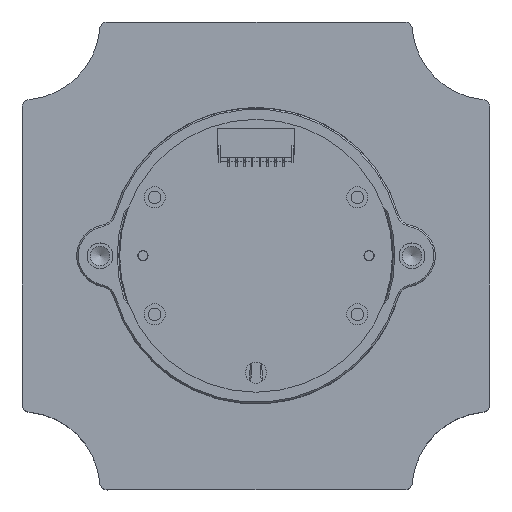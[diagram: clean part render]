
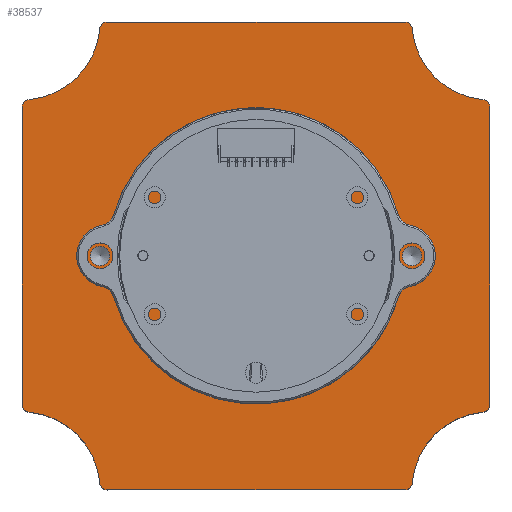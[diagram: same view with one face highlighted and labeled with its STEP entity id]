
A CAD part, top view. The second image highlights one B-rep face of the part: STEP entity #38537.
In plain terms, the highlighted planar face has unit normal (0, 0, 1).
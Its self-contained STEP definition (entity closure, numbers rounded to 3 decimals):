
#38281=CARTESIAN_POINT('',(20.041,-29.091,75.));
#38282=VERTEX_POINT('',#38281);
#38300=CARTESIAN_POINT('',(29.091,-20.041,75.));
#38301=VERTEX_POINT('',#38300);
#38308=CARTESIAN_POINT('',(30.,-30.,75.));
#38309=DIRECTION('',(-0.091,0.996,0.));
#38310=DIRECTION('',(0.,0.,1.));
#38311=AXIS2_PLACEMENT_3D('',#38308,#38310,#38309);
#38312=CIRCLE('',#38311,10.);
#38313=EDGE_CURVE('',#38301,#38282,#38312,.T.);
#38323=CARTESIAN_POINT('',(30.,-19.046,75.));
#38324=VERTEX_POINT('',#38323);
#38341=CARTESIAN_POINT('',(30.,19.046,75.));
#38342=VERTEX_POINT('',#38341);
#38349=CARTESIAN_POINT('',(30.,19.046,75.));
#38350=DIRECTION('',(0.,-1.,0.));
#38351=VECTOR('',#38350,38.091);
#38352=LINE('',#38349,#38351);
#38353=EDGE_CURVE('',#38342,#38324,#38352,.T.);
#38358=CARTESIAN_POINT('',(0.,0.,75.));
#38359=DIRECTION('',(0.,1.,0.));
#38360=DIRECTION('',(0.,-0.,1.));
#38361=AXIS2_PLACEMENT_3D('',#38358,#38360,#38359);
#38362=PLANE('',#38361);
#38363=CARTESIAN_POINT('',(-30.,19.046,75.));
#38364=VERTEX_POINT('',#38363);
#38365=CARTESIAN_POINT('',(-30.,-19.046,75.));
#38366=VERTEX_POINT('',#38365);
#38367=CARTESIAN_POINT('',(-30.,19.046,75.));
#38368=DIRECTION('',(0.,-1.,0.));
#38369=VECTOR('',#38368,38.091);
#38370=LINE('',#38367,#38369);
#38371=EDGE_CURVE('',#38364,#38366,#38370,.T.);
#38372=ORIENTED_EDGE('',*,*,#38371,.T.);
#38373=CARTESIAN_POINT('',(-29.091,-20.041,75.));
#38374=VERTEX_POINT('',#38373);
#38375=CARTESIAN_POINT('',(-29.,-19.046,75.));
#38376=DIRECTION('',(-1.,0.,0.));
#38377=DIRECTION('',(-0.,0.,1.));
#38378=AXIS2_PLACEMENT_3D('',#38375,#38377,#38376);
#38379=CIRCLE('',#38378,1.);
#38380=EDGE_CURVE('',#38366,#38374,#38379,.T.);
#38381=ORIENTED_EDGE('',*,*,#38380,.T.);
#38382=CARTESIAN_POINT('',(-20.041,-29.091,75.));
#38383=VERTEX_POINT('',#38382);
#38384=CARTESIAN_POINT('',(-30.,-30.,75.));
#38385=DIRECTION('',(0.091,0.996,0.));
#38386=DIRECTION('',(0.,-0.,-1.));
#38387=AXIS2_PLACEMENT_3D('',#38384,#38386,#38385);
#38388=CIRCLE('',#38387,10.);
#38389=EDGE_CURVE('',#38374,#38383,#38388,.T.);
#38390=ORIENTED_EDGE('',*,*,#38389,.T.);
#38391=CARTESIAN_POINT('',(-19.046,-30.,75.));
#38392=VERTEX_POINT('',#38391);
#38393=CARTESIAN_POINT('',(-19.046,-29.,75.));
#38394=DIRECTION('',(-0.996,-0.091,0.));
#38395=DIRECTION('',(-0.,0.,1.));
#38396=AXIS2_PLACEMENT_3D('',#38393,#38395,#38394);
#38397=CIRCLE('',#38396,1.);
#38398=EDGE_CURVE('',#38383,#38392,#38397,.T.);
#38399=ORIENTED_EDGE('',*,*,#38398,.T.);
#38400=CARTESIAN_POINT('',(19.046,-30.,75.));
#38401=VERTEX_POINT('',#38400);
#38402=CARTESIAN_POINT('',(-19.046,-30.,75.));
#38403=DIRECTION('',(1.,0.,0.));
#38404=VECTOR('',#38403,38.091);
#38405=LINE('',#38402,#38404);
#38406=EDGE_CURVE('',#38392,#38401,#38405,.T.);
#38407=ORIENTED_EDGE('',*,*,#38406,.T.);
#38408=CARTESIAN_POINT('',(19.046,-29.,75.));
#38409=DIRECTION('',(0.,-1.,0.));
#38410=DIRECTION('',(0.,-0.,1.));
#38411=AXIS2_PLACEMENT_3D('',#38408,#38410,#38409);
#38412=CIRCLE('',#38411,1.);
#38413=EDGE_CURVE('',#38401,#38282,#38412,.T.);
#38414=ORIENTED_EDGE('',*,*,#38413,.T.);
#38415=ORIENTED_EDGE('',*,*,#38313,.F.);
#38416=CARTESIAN_POINT('',(29.,-19.046,75.));
#38417=DIRECTION('',(0.091,-0.996,0.));
#38418=DIRECTION('',(0.,-0.,1.));
#38419=AXIS2_PLACEMENT_3D('',#38416,#38418,#38417);
#38420=CIRCLE('',#38419,1.);
#38421=EDGE_CURVE('',#38301,#38324,#38420,.T.);
#38422=ORIENTED_EDGE('',*,*,#38421,.T.);
#38423=ORIENTED_EDGE('',*,*,#38353,.F.);
#38424=CARTESIAN_POINT('',(29.091,20.041,75.));
#38425=VERTEX_POINT('',#38424);
#38426=CARTESIAN_POINT('',(29.,19.046,75.));
#38427=DIRECTION('',(1.,0.,0.));
#38428=DIRECTION('',(0.,0.,1.));
#38429=AXIS2_PLACEMENT_3D('',#38426,#38428,#38427);
#38430=CIRCLE('',#38429,1.);
#38431=EDGE_CURVE('',#38342,#38425,#38430,.T.);
#38432=ORIENTED_EDGE('',*,*,#38431,.T.);
#38433=CARTESIAN_POINT('',(20.041,29.091,75.));
#38434=VERTEX_POINT('',#38433);
#38435=CARTESIAN_POINT('',(30.,30.,75.));
#38436=DIRECTION('',(-0.091,-0.996,0.));
#38437=DIRECTION('',(0.,0.,-1.));
#38438=AXIS2_PLACEMENT_3D('',#38435,#38437,#38436);
#38439=CIRCLE('',#38438,10.);
#38440=EDGE_CURVE('',#38425,#38434,#38439,.T.);
#38441=ORIENTED_EDGE('',*,*,#38440,.T.);
#38442=CARTESIAN_POINT('',(19.046,30.,75.));
#38443=VERTEX_POINT('',#38442);
#38444=CARTESIAN_POINT('',(19.046,29.,75.));
#38445=DIRECTION('',(0.996,0.091,0.));
#38446=DIRECTION('',(0.,0.,1.));
#38447=AXIS2_PLACEMENT_3D('',#38444,#38446,#38445);
#38448=CIRCLE('',#38447,1.);
#38449=EDGE_CURVE('',#38434,#38443,#38448,.T.);
#38450=ORIENTED_EDGE('',*,*,#38449,.T.);
#38451=CARTESIAN_POINT('',(-19.046,30.,75.));
#38452=VERTEX_POINT('',#38451);
#38453=CARTESIAN_POINT('',(19.046,30.,75.));
#38454=DIRECTION('',(-1.,0.,0.));
#38455=VECTOR('',#38454,38.091);
#38456=LINE('',#38453,#38455);
#38457=EDGE_CURVE('',#38443,#38452,#38456,.T.);
#38458=ORIENTED_EDGE('',*,*,#38457,.T.);
#38459=CARTESIAN_POINT('',(-20.041,29.091,75.));
#38460=VERTEX_POINT('',#38459);
#38461=CARTESIAN_POINT('',(-19.046,29.,75.));
#38462=DIRECTION('',(0.,1.,0.));
#38463=DIRECTION('',(0.,0.,1.));
#38464=AXIS2_PLACEMENT_3D('',#38461,#38463,#38462);
#38465=CIRCLE('',#38464,1.);
#38466=EDGE_CURVE('',#38452,#38460,#38465,.T.);
#38467=ORIENTED_EDGE('',*,*,#38466,.T.);
#38468=CARTESIAN_POINT('',(-29.091,20.041,75.));
#38469=VERTEX_POINT('',#38468);
#38470=CARTESIAN_POINT('',(-30.,30.,75.));
#38471=DIRECTION('',(0.996,-0.091,0.));
#38472=DIRECTION('',(0.,0.,-1.));
#38473=AXIS2_PLACEMENT_3D('',#38470,#38472,#38471);
#38474=CIRCLE('',#38473,10.);
#38475=EDGE_CURVE('',#38460,#38469,#38474,.T.);
#38476=ORIENTED_EDGE('',*,*,#38475,.T.);
#38477=CARTESIAN_POINT('',(-29.,19.046,75.));
#38478=DIRECTION('',(-0.091,0.996,0.));
#38479=DIRECTION('',(0.,0.,1.));
#38480=AXIS2_PLACEMENT_3D('',#38477,#38479,#38478);
#38481=CIRCLE('',#38480,1.);
#38482=EDGE_CURVE('',#38469,#38364,#38481,.T.);
#38483=ORIENTED_EDGE('',*,*,#38482,.T.);
#38484=EDGE_LOOP('',(#38372,#38381,#38390,#38399,#38407,#38414,#38415,#38422,#38423,#38432,#38441,#38450,#38458,#38467,#38476,#38483));
#38485=FACE_OUTER_BOUND('',#38484,.T.);
#38486=CARTESIAN_POINT('',(7.5,0.,75.));
#38487=VERTEX_POINT('',#38486);
#38488=CARTESIAN_POINT('',(0.,0.,75.));
#38489=DIRECTION('',(1.,0.,-0.));
#38490=DIRECTION('',(0.,0.,-1.));
#38491=AXIS2_PLACEMENT_3D('',#38488,#38490,#38489);
#38492=CIRCLE('',#38491,7.5);
#38493=EDGE_CURVE('',#38487,#38487,#38492,.T.);
#38494=ORIENTED_EDGE('',*,*,#38493,.T.);
#38495=EDGE_LOOP('',(#38494));
#38496=FACE_BOUND('',#38495,.T.);
#38497=CARTESIAN_POINT('',(-18.75,0.,75.));
#38498=VERTEX_POINT('',#38497);
#38499=CARTESIAN_POINT('',(-21.25,0.,75.));
#38500=VERTEX_POINT('',#38499);
#38501=CARTESIAN_POINT('',(-20.,0.,75.));
#38502=DIRECTION('',(1.,0.,0.));
#38503=DIRECTION('',(-0.,0.,-1.));
#38504=AXIS2_PLACEMENT_3D('',#38501,#38503,#38502);
#38505=CIRCLE('',#38504,1.25);
#38506=EDGE_CURVE('',#38498,#38500,#38505,.T.);
#38507=ORIENTED_EDGE('',*,*,#38506,.T.);
#38508=CARTESIAN_POINT('',(-20.,0.,75.));
#38509=DIRECTION('',(-1.,0.,0.));
#38510=DIRECTION('',(0.,0.,-1.));
#38511=AXIS2_PLACEMENT_3D('',#38508,#38510,#38509);
#38512=CIRCLE('',#38511,1.25);
#38513=EDGE_CURVE('',#38500,#38498,#38512,.T.);
#38514=ORIENTED_EDGE('',*,*,#38513,.T.);
#38515=EDGE_LOOP('',(#38507,#38514));
#38516=FACE_BOUND('',#38515,.T.);
#38517=CARTESIAN_POINT('',(21.25,0.,75.));
#38518=VERTEX_POINT('',#38517);
#38519=CARTESIAN_POINT('',(18.75,0.,75.));
#38520=VERTEX_POINT('',#38519);
#38521=CARTESIAN_POINT('',(20.,0.,75.));
#38522=DIRECTION('',(1.,0.,0.));
#38523=DIRECTION('',(-0.,0.,-1.));
#38524=AXIS2_PLACEMENT_3D('',#38521,#38523,#38522);
#38525=CIRCLE('',#38524,1.25);
#38526=EDGE_CURVE('',#38518,#38520,#38525,.T.);
#38527=ORIENTED_EDGE('',*,*,#38526,.T.);
#38528=CARTESIAN_POINT('',(20.,0.,75.));
#38529=DIRECTION('',(-1.,0.,0.));
#38530=DIRECTION('',(0.,0.,-1.));
#38531=AXIS2_PLACEMENT_3D('',#38528,#38530,#38529);
#38532=CIRCLE('',#38531,1.25);
#38533=EDGE_CURVE('',#38520,#38518,#38532,.T.);
#38534=ORIENTED_EDGE('',*,*,#38533,.T.);
#38535=EDGE_LOOP('',(#38527,#38534));
#38536=FACE_BOUND('',#38535,.T.);
#38537=ADVANCED_FACE('',(#38485,#38496,#38516,#38536),#38362,.T.);
